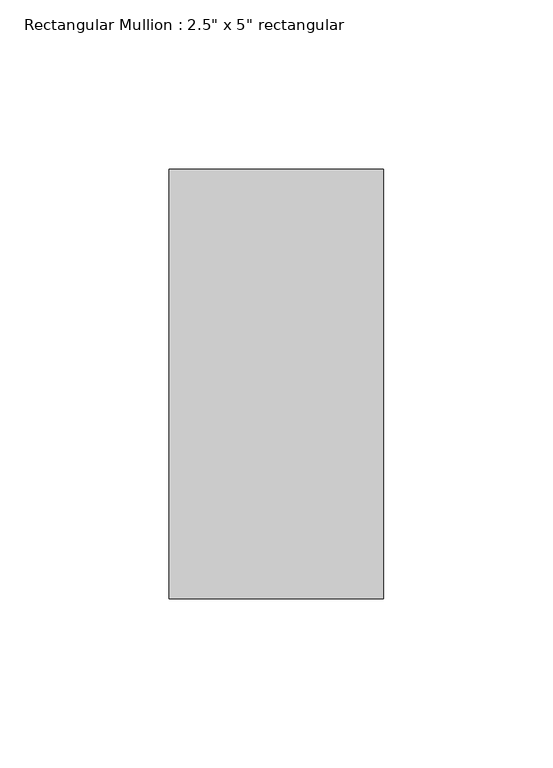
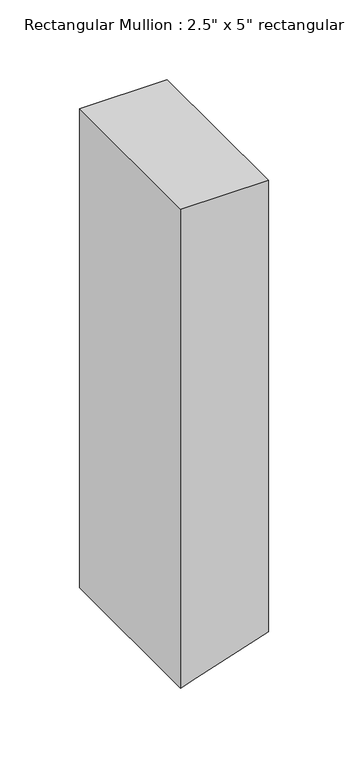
"""IFC4 building model written with IfcOpenShell, lengths in millimetres: member geometry."""

from ifc_helpers import new_model, si_unit, frame, origin, place, context, project, spatial, polyline, outline, extrude, source, transform, mapped, element, save


def member_4067c595(model_context):
    return source(origin(), model_context, "Body", "SweptSolid", [
        extrude(outline(polyline([(0.0, 31.75), (0.0, -31.75), (-366.9817895, -31.75), (-363.0919439, -20.0804631), (-345.8151229, 31.75), (0.0, 31.75)])), frame((0.0, -63.5, 0.0), z_axis=(0.0, 1.0, 0.0), x_axis=(0.0, 0.0, 1.0)), (0.0, 0.0, 1.0), 127.0),
    ])


if __name__ == "__main__":
    model = new_model("IFC4")
    model_context = context("Model", 3, world=origin())
    ifc_project = project(units=[si_unit("LENGTHUNIT", "METRE", prefix="MILLI")], contexts=[model_context])
    site = spatial("IfcSite", under=ifc_project)
    building = spatial("IfcBuilding", under=site)
    placement = place(None, origin())
    member_shape = member_4067c595(model_context)
    element("IfcMember", 1, ObjectType="Rectangular Mullion : 2.5\" x 5\" rectangular", at=placement, inside=building, context=model_context, shape_type="MappedRepresentation", body=[
        mapped(member_shape, transform((0.0, 0.0, 0.0), x_axis=(1.0, 0.0, 0.0), y_axis=(0.0, 1.0, 0.0), z_axis=(0.0, 0.0, 1.0))),
    ])
    save(model, "model.ifc")
